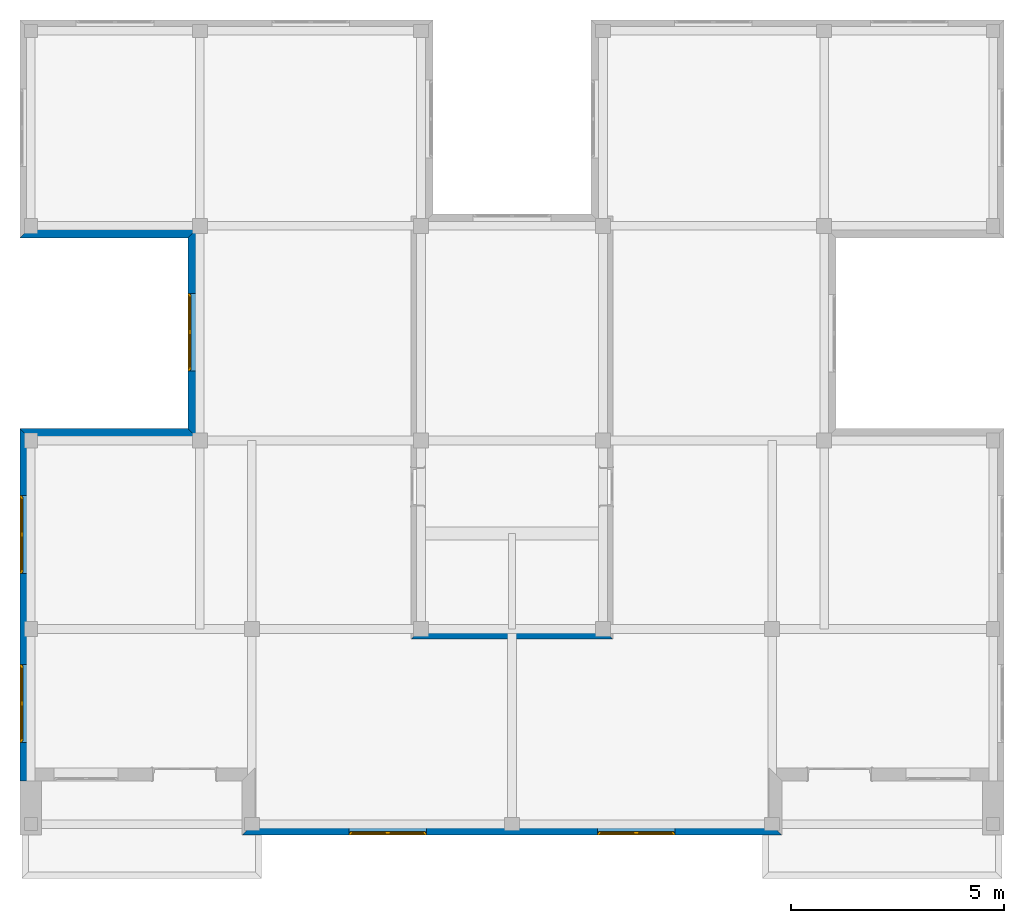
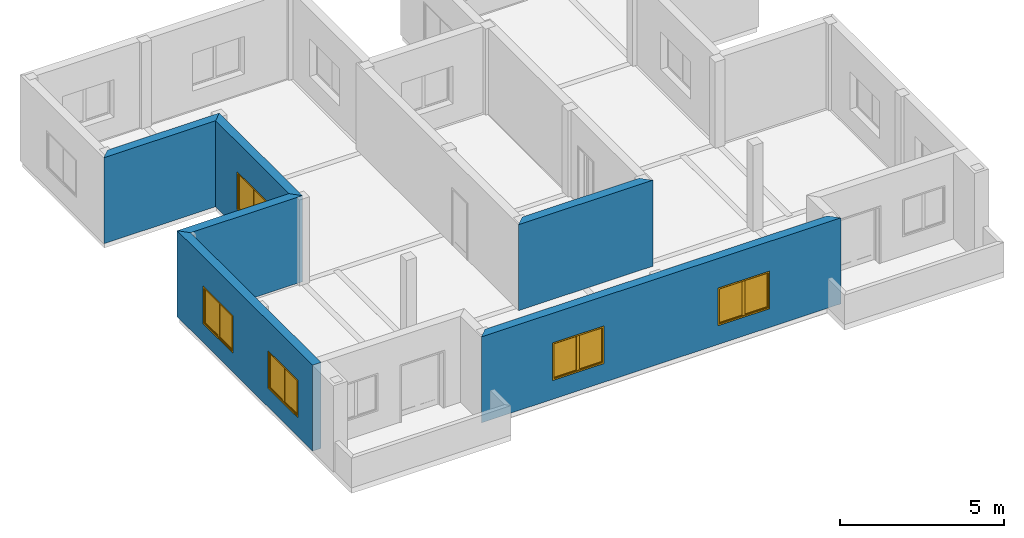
# One storey, part 3 of 6: 6 walls, 5 windows, 5 openings.
"""IFC2X3 building model written with IfcOpenShell, lengths in millimetres."""

from ifc_helpers import new_model, entity, si_unit, converted_unit, direction, frame, origin_with_axes, origin_2d_with_axis, place, context, subcontext, project, spatial, polyline, rectangle, outline, extrude, faceted_brep, source, transform, mapped, material, layer, layer_set, layer_usage, type_object, element, fill, save


model = new_model("IFC2X3")

# Units and contexts
model_context = context("Model", 3, precision=1e-05, world=origin_with_axes(), true_north=direction((0.0, 1.0)))
body_context = subcontext(model_context, "Body", "Model", "MODEL_VIEW")
ifc_project = project(units=[si_unit("LENGTHUNIT", "METRE", prefix="MILLI"), si_unit("AREAUNIT", "SQUARE_METRE"), si_unit("VOLUMEUNIT", "CUBIC_METRE"), converted_unit("PLANEANGLEUNIT", "DEGREE", entity("IfcPlaneAngleMeasure", 0.017453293), si_unit("PLANEANGLEUNIT", "RADIAN"), dimensions=[0, 0, 0, 0, 0, 0, 0]), si_unit("SOLIDANGLEUNIT", "STERADIAN"), si_unit("MASSUNIT", "GRAM"), si_unit("TIMEUNIT", "SECOND"), si_unit("THERMODYNAMICTEMPERATUREUNIT", "DEGREE_CELSIUS"), si_unit("LUMINOUSINTENSITYUNIT", "LUMEN")], contexts=[model_context])

# Site, building, storey
site_placement = place(None, origin_with_axes())
site = spatial("IfcSite", under=ifc_project, at=site_placement, Name="Sitio", CompositionType="ELEMENT")
building_placement = place(site_placement, origin_with_axes())
building = spatial("IfcBuilding", under=site, at=building_placement, Name="Ejemplo_StruBIM", CompositionType="ELEMENT")
storey_placement = place(building_placement, frame((0.0, 0.0, 9601.2), z_axis=(0.0, 0.0, 1.0), x_axis=(1.0, 0.0, 0.0)))
storey = spatial("IfcBuildingStorey", under=building, at=storey_placement, Name="Third floor", CompositionType="ELEMENT", Elevation=9601.2)

# Wall
ifc_material_1 = material(Name="Bloque mampostería")
ifc_layer = layer(ifc_material_1, 300.0, ventilated="UNKNOWN")
ifc_layer_set = layer_set([ifc_layer], Name="Bloque mampostería 300")
ifc_layer_usage_1 = layer_usage(ifc_layer_set, "AXIS2", "POSITIVE", 0.0)
wall_type = type_object("IfcWallType", Name="Bloque mampostería 11 3/4\"", PredefinedType="NOTDEFINED")
wall_1_placement = place(storey_placement, frame((-254.0, 13741.4, 0.0), z_axis=(0.0, 0.0, 1.0), x_axis=(1.0, 0.0, 0.0)))
element("IfcWallStandardCase", 1, at=wall_1_placement, inside=storey, type_object=wall_type, material=ifc_layer_usage_1, Name="Muro-007", context=body_context, shape_type="SweptSolid", body=[
    extrude(outline(polyline([(0.0, 0.0), (3937.0, 0.0), (4237.0, 300.0), (300.0, 300.0), (0.0, 0.0)])), origin_with_axes(), (0.0, 0.0, 1.0), 3200.4),
])

# Wall, opening, window
ifc_layer_usage_2 = layer_usage(ifc_layer_set, "AXIS2", "POSITIVE", 0.0)
wall_2_placement = place(storey_placement, frame((3683.0, 13741.4, 0.0), z_axis=(0.0, 0.0, 1.0), x_axis=(0.0, -1.0, 0.0)))
wall_2 = element("IfcWallStandardCase", 2, at=wall_2_placement, inside=storey, type_object=wall_type, material=ifc_layer_usage_2, Name="Muro-008", context=body_context, shape_type="SweptSolid", body=[
    extrude(outline(polyline([(0.0, 0.0), (4470.4, 0.0), (4770.4, 300.0), (-300.0, 300.0), (0.0, 0.0)])), origin_with_axes(), (0.0, 0.0, 1.0), 3200.4),
])
opening_1_placement = place(wall_2_placement, frame((2209.8, 0.0, 700.0), z_axis=(0.0, 0.0, 1.0), x_axis=(1.0, 0.0, 0.0)))
opening_1 = element("IfcOpeningElement", 3, at=opening_1_placement, cuts=wall_2, Name="V19", context=body_context, shape_type="SweptSolid", body=[
    extrude(rectangle(XDim=1820.0, YDim=1400.0, at=origin_2d_with_axis()), frame((0.0, 300.0, 700.0), z_axis=(0.0, 1.0, 0.0), x_axis=(1.0, 0.0, 0.0)), (0.0, 0.0, -1.0), 300.0),
])
ifc_material_2 = material(Name="Fondo")
window_style = type_object("IfcWindowStyle", Name="Ventana Doble Hoja 16", ConstructionType="NOTDEFINED", OperationType="DOUBLE_PANEL_HORIZONTAL", ParameterTakesPrecedence=False, Sizeable=False)
shared_shape_1 = source(origin_with_axes(), body_context, "Body", "Brep", [
    faceted_brep([(885.0, -50.0, 1350.0), (910.0, -50.0, 1350.0), (910.0, 0.0, 1350.0), (860.0, 0.0, 1350.0), (860.0, -25.0, 1350.0), (885.0, -25.0, 1350.0), (885.0, -50.0, 50.0), (910.0, -50.0, 50.0), (910.0, 0.0, 50.0), (860.0, 0.0, 50.0), (860.0, -25.0, 50.0), (885.0, -25.0, 50.0)], [[[0, 1, 2, 3, 4, 5]], [[6, 7, 1, 0]], [[1, 7, 8, 2]], [[2, 8, 9, 3]], [[4, 3, 9, 10]], [[10, 11, 5, 4]], [[5, 11, 6, 0]], [[11, 10, 9, 8, 7, 6]]]),
    faceted_brep([(-860.0, -25.0, 1350.0), (-860.0, 0.0, 1350.0), (-910.0, 0.0, 1350.0), (-910.0, -50.0, 1350.0), (-885.0, -50.0, 1350.0), (-885.0, -25.0, 1350.0), (-860.0, -25.0, 50.0), (-860.0, 0.0, 50.0), (-910.0, 0.0, 50.0), (-910.0, -50.0, 50.0), (-885.0, -50.0, 50.0), (-885.0, -25.0, 50.0)], [[[0, 1, 2, 3, 4, 5]], [[6, 7, 1, 0]], [[8, 2, 1, 7]], [[9, 3, 2, 8]], [[4, 3, 9, 10]], [[10, 11, 5, 4]], [[5, 11, 6, 0]], [[11, 10, 9, 8, 7, 6]]]),
    faceted_brep([(-860.0, -25.0, 50.0), (-860.0, 0.0, 50.0), (-910.0, 0.0, 50.0), (-910.0, -50.0, 50.0), (-885.0, -50.0, 50.0), (-885.0, -25.0, 50.0), (860.0, -25.0, 50.0), (860.0, 0.0, 50.0), (910.0, 0.0, 50.0), (910.0, 0.0, 0.0), (-910.0, 0.0, 0.0), (-910.0, -50.0, 0.0), (885.0, -50.0, 25.0), (-885.0, -50.0, 25.0), (910.0, -50.0, 0.0), (910.0, -50.0, 50.0), (885.0, -50.0, 50.0), (-885.0, -25.0, 25.0), (885.0, -25.0, 25.0), (885.0, -25.0, 50.0)], [[[0, 1, 2, 3, 4, 5]], [[6, 7, 1, 0]], [[8, 9, 10, 2, 1, 7]], [[11, 3, 2, 10]], [[12, 13, 4, 3, 11, 14, 15, 16]], [[13, 17, 5, 4]], [[5, 17, 18, 19, 6, 0]], [[19, 16, 15, 8, 7, 6]], [[15, 14, 9, 8]], [[14, 11, 10, 9]], [[12, 18, 17, 13]], [[19, 18, 12, 16]]]),
    faceted_brep([(885.0, -50.0, 1350.0), (910.0, -50.0, 1350.0), (910.0, -50.0, 1400.0), (-910.0, -50.0, 1400.0), (-910.0, -50.0, 1350.0), (-885.0, -50.0, 1350.0), (-885.0, -50.0, 1375.0), (885.0, -50.0, 1375.0), (885.0, -25.0, 1350.0), (860.0, -25.0, 1350.0), (860.0, 0.0, 1350.0), (910.0, 0.0, 1350.0), (910.0, 0.0, 1400.0), (-910.0, 0.0, 1400.0), (-910.0, 0.0, 1350.0), (-885.0, -25.0, 1350.0), (-860.0, 0.0, 1350.0), (-860.0, -25.0, 1350.0), (-885.0, -25.0, 1375.0), (885.0, -25.0, 1375.0)], [[[0, 1, 2, 3, 4, 5, 6, 7]], [[8, 9, 10, 11, 1, 0]], [[2, 1, 11, 12]], [[3, 2, 12, 13]], [[4, 3, 13, 14]], [[15, 5, 4, 14, 16, 17]], [[5, 15, 18, 6]], [[6, 18, 19, 7]], [[7, 19, 8, 0]], [[17, 9, 8, 19, 18, 15]], [[17, 16, 10, 9]], [[14, 13, 12, 11, 10, 16]]]),
    faceted_brep([(835.0, -25.0, 1325.0), (835.0, -75.0, 1325.0), (885.0, -75.0, 1325.0), (885.0, -25.0, 1325.0), (835.0, -25.0, 75.0), (835.0, -75.0, 75.0), (885.0, -75.0, 75.0), (885.0, -25.0, 75.0)], [[[0, 1, 2, 3]], [[4, 5, 1, 0]], [[1, 5, 6, 2]], [[3, 2, 6, 7]], [[0, 3, 7, 4]], [[7, 6, 5, 4]]]),
    faceted_brep([(50.0, -25.0, 75.0), (50.0, -75.0, 75.0), (0.0, -75.0, 75.0), (0.0, -25.0, 75.0), (50.0, -25.0, 1325.0), (50.0, -75.0, 1325.0), (0.0, -75.0, 1325.0), (0.0, -25.0, 1325.0)], [[[0, 1, 2, 3]], [[4, 5, 1, 0]], [[1, 5, 6, 2]], [[3, 2, 6, 7]], [[0, 3, 7, 4]], [[7, 6, 5, 4]]]),
    faceted_brep([(0.0, -25.0, 25.0), (0.0, -75.0, 25.0), (0.0, -75.0, 75.0), (0.0, -25.0, 75.0), (885.0, -25.0, 25.0), (885.0, -75.0, 25.0), (885.0, -75.0, 75.0), (835.0, -75.0, 75.0), (50.0, -75.0, 75.0), (50.0, -25.0, 75.0), (835.0, -25.0, 75.0), (885.0, -25.0, 75.0)], [[[0, 1, 2, 3]], [[4, 5, 1, 0]], [[1, 5, 6, 7, 8, 2]], [[3, 2, 8, 9]], [[0, 3, 9, 10, 11, 4]], [[11, 6, 5, 4]], [[10, 7, 6, 11]], [[9, 8, 7, 10]]]),
    faceted_brep([(885.0, -25.0, 1375.0), (885.0, -75.0, 1375.0), (885.0, -75.0, 1325.0), (885.0, -25.0, 1325.0), (0.0, -25.0, 1375.0), (0.0, -75.0, 1375.0), (0.0, -75.0, 1325.0), (50.0, -75.0, 1325.0), (835.0, -75.0, 1325.0), (835.0, -25.0, 1325.0), (50.0, -25.0, 1325.0), (0.0, -25.0, 1325.0)], [[[0, 1, 2, 3]], [[4, 5, 1, 0]], [[1, 5, 6, 7, 8, 2]], [[3, 2, 8, 9]], [[0, 3, 9, 10, 11, 4]], [[11, 6, 5, 4]], [[10, 7, 6, 11]], [[9, 8, 7, 10]]]),
    faceted_brep([(835.0, -40.0, 75.0), (835.0, -60.0, 75.0), (50.0, -60.0, 75.0), (50.0, -40.0, 75.0), (835.0, -40.0, 1325.0), (835.0, -60.0, 1325.0), (50.0, -60.0, 1325.0), (50.0, -40.0, 1325.0)], [[[0, 1, 2, 3]], [[4, 5, 1, 0]], [[1, 5, 6, 2]], [[3, 2, 6, 7]], [[0, 3, 7, 4]], [[7, 6, 5, 4]]]),
    faceted_brep([(-50.0, -25.0, 1325.0), (-50.0, -75.0, 1325.0), (0.0, -75.0, 1325.0), (0.0, -25.0, 1325.0), (-50.0, -25.0, 75.0), (-50.0, -75.0, 75.0), (0.0, -75.0, 75.0), (0.0, -25.0, 75.0)], [[[0, 1, 2, 3]], [[4, 5, 1, 0]], [[1, 5, 6, 2]], [[3, 2, 6, 7]], [[0, 3, 7, 4]], [[7, 6, 5, 4]]]),
    faceted_brep([(-835.0, -25.0, 75.0), (-835.0, -75.0, 75.0), (-885.0, -75.0, 75.0), (-885.0, -25.0, 75.0), (-835.0, -25.0, 1325.0), (-835.0, -75.0, 1325.0), (-885.0, -75.0, 1325.0), (-885.0, -25.0, 1325.0)], [[[0, 1, 2, 3]], [[4, 5, 1, 0]], [[1, 5, 6, 2]], [[3, 2, 6, 7]], [[0, 3, 7, 4]], [[7, 6, 5, 4]]]),
    faceted_brep([(-885.0, -25.0, 25.0), (-885.0, -75.0, 25.0), (-885.0, -75.0, 75.0), (-885.0, -25.0, 75.0), (0.0, -25.0, 25.0), (0.0, -75.0, 25.0), (0.0, -75.0, 75.0), (-50.0, -75.0, 75.0), (-835.0, -75.0, 75.0), (-835.0, -25.0, 75.0), (-50.0, -25.0, 75.0), (0.0, -25.0, 75.0)], [[[0, 1, 2, 3]], [[4, 5, 1, 0]], [[1, 5, 6, 7, 8, 2]], [[3, 2, 8, 9]], [[0, 3, 9, 10, 11, 4]], [[11, 6, 5, 4]], [[10, 7, 6, 11]], [[9, 8, 7, 10]]]),
    faceted_brep([(0.0, -25.0, 1375.0), (0.0, -75.0, 1375.0), (0.0, -75.0, 1325.0), (0.0, -25.0, 1325.0), (-885.0, -25.0, 1375.0), (-885.0, -75.0, 1375.0), (-885.0, -75.0, 1325.0), (-835.0, -75.0, 1325.0), (-50.0, -75.0, 1325.0), (-50.0, -25.0, 1325.0), (-835.0, -25.0, 1325.0), (-885.0, -25.0, 1325.0)], [[[0, 1, 2, 3]], [[4, 5, 1, 0]], [[1, 5, 6, 7, 8, 2]], [[3, 2, 8, 9]], [[0, 3, 9, 10, 11, 4]], [[11, 6, 5, 4]], [[10, 7, 6, 11]], [[9, 8, 7, 10]]]),
    faceted_brep([(-50.0, -40.0, 75.0), (-50.0, -60.0, 75.0), (-835.0, -60.0, 75.0), (-835.0, -40.0, 75.0), (-50.0, -40.0, 1325.0), (-50.0, -60.0, 1325.0), (-835.0, -60.0, 1325.0), (-835.0, -40.0, 1325.0)], [[[0, 1, 2, 3]], [[4, 5, 1, 0]], [[1, 5, 6, 2]], [[3, 2, 6, 7]], [[0, 3, 7, 4]], [[7, 6, 5, 4]]]),
])
window_1_placement = place(opening_1_placement, frame((910.0, 0.0, 0.0), z_axis=(0.0, 0.0, 1.0), x_axis=(-1.0, 0.0, 0.0)))
window_1 = element("IfcWindow", 4, at=window_1_placement, inside=storey, type_object=window_style, material=ifc_material_2, Name="V19", OverallHeight=1400.0, OverallWidth=1820.0, context=body_context, shape_type="MappedRepresentation", body=[
    mapped(shared_shape_1, transform((910.0, 0.0, 0.0))),
])
fill(opening_1, window_1)

# Wall
ifc_layer_usage_3 = layer_usage(ifc_layer_set, "AXIS2", "POSITIVE", 0.0)
wall_3_placement = place(storey_placement, frame((3683.0, 9271.0, 0.0), z_axis=(0.0, 0.0, 1.0), x_axis=(-1.0, 0.0, 0.0)))
element("IfcWallStandardCase", 5, at=wall_3_placement, inside=storey, type_object=wall_type, material=ifc_layer_usage_3, Name="Muro-009", context=body_context, shape_type="SweptSolid", body=[
    extrude(outline(polyline([(0.0, 0.0), (3937.0, 0.0), (3637.0, 300.0), (-300.0, 300.0), (0.0, 0.0)])), origin_with_axes(), (0.0, 0.0, 1.0), 3200.4),
])

# Wall, openings, windows
ifc_layer_usage_4 = layer_usage(ifc_layer_set, "AXIS2", "POSITIVE", 0.0)
wall_4_placement = place(storey_placement, frame((-254.0, 9271.0, 0.0), z_axis=(0.0, 0.0, 1.0), x_axis=(0.0, -1.0, 0.0)))
wall_4 = element("IfcWallStandardCase", 6, at=wall_4_placement, inside=storey, type_object=wall_type, material=ifc_layer_usage_4, Name="Muro-010", context=body_context, shape_type="SweptSolid", body=[
    extrude(outline(polyline([(0.0, 0.0), (8255.0, 0.0), (8255.0, 300.0), (300.0, 300.0), (0.0, 0.0)])), origin_with_axes(), (0.0, 0.0, 1.0), 3200.4),
])
opening_2_placement = place(wall_4_placement, frame((2484.8, 0.0, 700.0), z_axis=(0.0, 0.0, 1.0), x_axis=(1.0, 0.0, 0.0)))
opening_2 = element("IfcOpeningElement", 7, at=opening_2_placement, cuts=wall_4, Name="V06", context=body_context, shape_type="SweptSolid", body=[
    extrude(rectangle(XDim=1820.0, YDim=1400.0, at=origin_2d_with_axis()), frame((0.0, 300.0, 700.0), z_axis=(0.0, 1.0, 0.0), x_axis=(1.0, 0.0, 0.0)), (0.0, 0.0, -1.0), 300.0),
])
opening_3_placement = place(wall_4_placement, frame((6443.3, 0.0, 700.0), z_axis=(0.0, 0.0, 1.0), x_axis=(1.0, 0.0, 0.0)))
opening_3 = element("IfcOpeningElement", 8, at=opening_3_placement, cuts=wall_4, Name="V07", context=body_context, shape_type="SweptSolid", body=[
    extrude(rectangle(XDim=1820.0, YDim=1400.0, at=origin_2d_with_axis()), frame((0.0, 300.0, 700.0), z_axis=(0.0, -1.0, 0.0), x_axis=(1.0, 0.0, 0.0)), (0.0, 0.0, 1.0), 300.0),
])
shared_shape_2 = source(origin_with_axes(), body_context, "Body", "Brep", [
    faceted_brep([(-885.0, -50.0, 1350.0), (-885.0, -25.0, 1350.0), (-860.0, -25.0, 1350.0), (-860.0, 0.0, 1350.0), (-910.0, 0.0, 1350.0), (-910.0, -50.0, 1350.0), (-885.0, -50.0, 50.0), (-885.0, -25.0, 50.0), (-860.0, -25.0, 50.0), (-860.0, 0.0, 50.0), (-910.0, 0.0, 50.0), (-910.0, -50.0, 50.0)], [[[0, 1, 2, 3, 4, 5]], [[1, 0, 6, 7]], [[8, 2, 1, 7]], [[2, 8, 9, 3]], [[4, 3, 9, 10]], [[5, 4, 10, 11]], [[6, 0, 5, 11]], [[7, 6, 11, 10, 9, 8]]]),
    faceted_brep([(860.0, -25.0, 1350.0), (885.0, -25.0, 1350.0), (885.0, -50.0, 1350.0), (910.0, -50.0, 1350.0), (910.0, 0.0, 1350.0), (860.0, 0.0, 1350.0), (860.0, -25.0, 50.0), (885.0, -25.0, 50.0), (885.0, -50.0, 50.0), (910.0, -50.0, 50.0), (910.0, 0.0, 50.0), (860.0, 0.0, 50.0)], [[[0, 1, 2, 3, 4, 5]], [[1, 0, 6, 7]], [[8, 2, 1, 7]], [[2, 8, 9, 3]], [[9, 10, 4, 3]], [[10, 11, 5, 4]], [[6, 0, 5, 11]], [[7, 6, 11, 10, 9, 8]]]),
    faceted_brep([(860.0, -25.0, 50.0), (885.0, -25.0, 50.0), (885.0, -50.0, 50.0), (910.0, -50.0, 50.0), (910.0, 0.0, 50.0), (860.0, 0.0, 50.0), (-860.0, -25.0, 50.0), (-885.0, -25.0, 50.0), (-885.0, -25.0, 25.0), (885.0, -25.0, 25.0), (885.0, -50.0, 25.0), (-885.0, -50.0, 25.0), (-885.0, -50.0, 50.0), (-910.0, -50.0, 50.0), (-910.0, -50.0, 0.0), (910.0, -50.0, 0.0), (910.0, 0.0, 0.0), (-910.0, 0.0, 50.0), (-860.0, 0.0, 50.0), (-910.0, 0.0, 0.0)], [[[0, 1, 2, 3, 4, 5]], [[1, 0, 6, 7, 8, 9]], [[10, 2, 1, 9]], [[11, 12, 13, 14, 15, 3, 2, 10]], [[15, 16, 4, 3]], [[17, 18, 5, 4, 16, 19]], [[6, 0, 5, 18]], [[7, 6, 18, 17, 13, 12]], [[7, 12, 11, 8]], [[11, 10, 9, 8]], [[13, 17, 19, 14]], [[14, 19, 16, 15]]]),
    faceted_brep([(-885.0, -50.0, 1350.0), (-885.0, -50.0, 1375.0), (885.0, -50.0, 1375.0), (885.0, -50.0, 1350.0), (910.0, -50.0, 1350.0), (910.0, -50.0, 1400.0), (-910.0, -50.0, 1400.0), (-910.0, -50.0, 1350.0), (-885.0, -25.0, 1350.0), (-885.0, -25.0, 1375.0), (885.0, -25.0, 1375.0), (885.0, -25.0, 1350.0), (860.0, -25.0, 1350.0), (860.0, 0.0, 1350.0), (910.0, 0.0, 1350.0), (910.0, 0.0, 1400.0), (-910.0, 0.0, 1400.0), (-910.0, 0.0, 1350.0), (-860.0, 0.0, 1350.0), (-860.0, -25.0, 1350.0)], [[[0, 1, 2, 3, 4, 5, 6, 7]], [[1, 0, 8, 9]], [[2, 1, 9, 10]], [[3, 2, 10, 11]], [[11, 12, 13, 14, 4, 3]], [[4, 14, 15, 5]], [[5, 15, 16, 6]], [[6, 16, 17, 7]], [[8, 0, 7, 17, 18, 19]], [[12, 11, 10, 9, 8, 19]], [[12, 19, 18, 13]], [[14, 13, 18, 17, 16, 15]]]),
    faceted_brep([(-835.0, -25.0, 1325.0), (-885.0, -25.0, 1325.0), (-885.0, -75.0, 1325.0), (-835.0, -75.0, 1325.0), (-835.0, -25.0, 75.0), (-885.0, -25.0, 75.0), (-885.0, -75.0, 75.0), (-835.0, -75.0, 75.0)], [[[0, 1, 2, 3]], [[0, 4, 5, 1]], [[1, 5, 6, 2]], [[3, 2, 6, 7]], [[4, 0, 3, 7]], [[5, 4, 7, 6]]]),
    faceted_brep([(-50.0, -25.0, 75.0), (0.0, -25.0, 75.0), (0.0, -75.0, 75.0), (-50.0, -75.0, 75.0), (-50.0, -25.0, 1325.0), (0.0, -25.0, 1325.0), (0.0, -75.0, 1325.0), (-50.0, -75.0, 1325.0)], [[[0, 1, 2, 3]], [[0, 4, 5, 1]], [[1, 5, 6, 2]], [[3, 2, 6, 7]], [[4, 0, 3, 7]], [[5, 4, 7, 6]]]),
    faceted_brep([(0.0, -25.0, 25.0), (0.0, -25.0, 75.0), (0.0, -75.0, 75.0), (0.0, -75.0, 25.0), (-885.0, -25.0, 25.0), (-885.0, -25.0, 75.0), (-835.0, -25.0, 75.0), (-50.0, -25.0, 75.0), (-50.0, -75.0, 75.0), (-835.0, -75.0, 75.0), (-885.0, -75.0, 75.0), (-885.0, -75.0, 25.0)], [[[0, 1, 2, 3]], [[0, 4, 5, 6, 7, 1]], [[1, 7, 8, 2]], [[3, 2, 8, 9, 10, 11]], [[4, 0, 3, 11]], [[5, 4, 11, 10]], [[6, 5, 10, 9]], [[7, 6, 9, 8]]]),
    faceted_brep([(-885.0, -25.0, 1375.0), (-885.0, -25.0, 1325.0), (-885.0, -75.0, 1325.0), (-885.0, -75.0, 1375.0), (0.0, -25.0, 1375.0), (0.0, -25.0, 1325.0), (-50.0, -25.0, 1325.0), (-835.0, -25.0, 1325.0), (-835.0, -75.0, 1325.0), (-50.0, -75.0, 1325.0), (0.0, -75.0, 1325.0), (0.0, -75.0, 1375.0)], [[[0, 1, 2, 3]], [[0, 4, 5, 6, 7, 1]], [[1, 7, 8, 2]], [[3, 2, 8, 9, 10, 11]], [[4, 0, 3, 11]], [[5, 4, 11, 10]], [[6, 5, 10, 9]], [[7, 6, 9, 8]]]),
    faceted_brep([(-835.0, -40.0, 75.0), (-50.0, -40.0, 75.0), (-50.0, -60.0, 75.0), (-835.0, -60.0, 75.0), (-835.0, -40.0, 1325.0), (-50.0, -40.0, 1325.0), (-50.0, -60.0, 1325.0), (-835.0, -60.0, 1325.0)], [[[0, 1, 2, 3]], [[0, 4, 5, 1]], [[1, 5, 6, 2]], [[3, 2, 6, 7]], [[4, 0, 3, 7]], [[5, 4, 7, 6]]]),
    faceted_brep([(50.0, -25.0, 1325.0), (0.0, -25.0, 1325.0), (0.0, -75.0, 1325.0), (50.0, -75.0, 1325.0), (50.0, -25.0, 75.0), (0.0, -25.0, 75.0), (0.0, -75.0, 75.0), (50.0, -75.0, 75.0)], [[[0, 1, 2, 3]], [[0, 4, 5, 1]], [[1, 5, 6, 2]], [[3, 2, 6, 7]], [[4, 0, 3, 7]], [[5, 4, 7, 6]]]),
    faceted_brep([(835.0, -25.0, 75.0), (885.0, -25.0, 75.0), (885.0, -75.0, 75.0), (835.0, -75.0, 75.0), (835.0, -25.0, 1325.0), (885.0, -25.0, 1325.0), (885.0, -75.0, 1325.0), (835.0, -75.0, 1325.0)], [[[0, 1, 2, 3]], [[0, 4, 5, 1]], [[1, 5, 6, 2]], [[3, 2, 6, 7]], [[4, 0, 3, 7]], [[5, 4, 7, 6]]]),
    faceted_brep([(885.0, -25.0, 25.0), (885.0, -25.0, 75.0), (885.0, -75.0, 75.0), (885.0, -75.0, 25.0), (0.0, -25.0, 25.0), (0.0, -25.0, 75.0), (50.0, -25.0, 75.0), (835.0, -25.0, 75.0), (835.0, -75.0, 75.0), (50.0, -75.0, 75.0), (0.0, -75.0, 75.0), (0.0, -75.0, 25.0)], [[[0, 1, 2, 3]], [[0, 4, 5, 6, 7, 1]], [[1, 7, 8, 2]], [[3, 2, 8, 9, 10, 11]], [[4, 0, 3, 11]], [[5, 4, 11, 10]], [[6, 5, 10, 9]], [[7, 6, 9, 8]]]),
    faceted_brep([(0.0, -25.0, 1375.0), (0.0, -25.0, 1325.0), (0.0, -75.0, 1325.0), (0.0, -75.0, 1375.0), (885.0, -25.0, 1375.0), (885.0, -25.0, 1325.0), (835.0, -25.0, 1325.0), (50.0, -25.0, 1325.0), (50.0, -75.0, 1325.0), (835.0, -75.0, 1325.0), (885.0, -75.0, 1325.0), (885.0, -75.0, 1375.0)], [[[0, 1, 2, 3]], [[0, 4, 5, 6, 7, 1]], [[1, 7, 8, 2]], [[3, 2, 8, 9, 10, 11]], [[4, 0, 3, 11]], [[5, 4, 11, 10]], [[6, 5, 10, 9]], [[7, 6, 9, 8]]]),
    faceted_brep([(50.0, -40.0, 75.0), (835.0, -40.0, 75.0), (835.0, -60.0, 75.0), (50.0, -60.0, 75.0), (50.0, -40.0, 1325.0), (835.0, -40.0, 1325.0), (835.0, -60.0, 1325.0), (50.0, -60.0, 1325.0)], [[[0, 1, 2, 3]], [[0, 4, 5, 1]], [[1, 5, 6, 2]], [[3, 2, 6, 7]], [[4, 0, 3, 7]], [[5, 4, 7, 6]]]),
])
window_2_placement = place(opening_3_placement, frame((910.0, 0.0, 0.0), z_axis=(0.0, 0.0, 1.0), x_axis=(-1.0, 0.0, 0.0)))
window_2 = element("IfcWindow", 9, at=window_2_placement, inside=storey, type_object=window_style, material=ifc_material_2, Name="V07", OverallHeight=1400.0, OverallWidth=1820.0, context=body_context, shape_type="MappedRepresentation", body=[
    mapped(shared_shape_2, transform((910.0, 0.0, 0.0))),
])
fill(opening_3, window_2)
window_3_placement = place(opening_2_placement, frame((910.0, 0.0, 0.0), z_axis=(0.0, 0.0, 1.0), x_axis=(-1.0, 0.0, 0.0)))
window_3 = element("IfcWindow", 10, at=window_3_placement, inside=storey, type_object=window_style, material=ifc_material_2, Name="V06", OverallHeight=1400.0, OverallWidth=1820.0, context=body_context, shape_type="MappedRepresentation", body=[
    mapped(shared_shape_1, transform((910.0, 0.0, 0.0))),
])
fill(opening_2, window_3)

ifc_layer_usage_5 = layer_usage(ifc_layer_set, "AXIS2", "POSITIVE", 0.0)
wall_5_placement = place(storey_placement, frame((4953.0, -254.0, 0.0), z_axis=(0.0, 0.0, 1.0), x_axis=(1.0, 0.0, 0.0)))
wall_5 = element("IfcWallStandardCase", 11, at=wall_5_placement, inside=storey, type_object=wall_type, material=ifc_layer_usage_5, Name="Muro-015", context=body_context, shape_type="SweptSolid", body=[
    extrude(outline(polyline([(0.0, 0.0), (12649.2, 0.0), (12349.2, 300.0), (300.0, 300.0), (0.0, 0.0)])), origin_with_axes(), (0.0, 0.0, 1.0), 3200.4),
])
opening_4_placement = place(wall_5_placement, frame((9237.3, 0.0, 700.0), z_axis=(0.0, 0.0, 1.0), x_axis=(1.0, 0.0, 0.0)))
opening_4 = element("IfcOpeningElement", 12, at=opening_4_placement, cuts=wall_5, Name="V16", context=body_context, shape_type="SweptSolid", body=[
    extrude(rectangle(XDim=1820.0, YDim=1400.0, at=origin_2d_with_axis()), frame((0.0, 300.0, 700.0), z_axis=(0.0, 1.0, 0.0), x_axis=(1.0, 0.0, 0.0)), (0.0, 0.0, -1.0), 300.0),
])
opening_5_placement = place(wall_5_placement, frame((3411.9, 0.0, 700.0), z_axis=(0.0, 0.0, 1.0), x_axis=(1.0, 0.0, 0.0)))
opening_5 = element("IfcOpeningElement", 13, at=opening_5_placement, cuts=wall_5, Name="V17", context=body_context, shape_type="SweptSolid", body=[
    extrude(rectangle(XDim=1820.0, YDim=1400.0, at=origin_2d_with_axis()), frame((0.0, 300.0, 700.0), z_axis=(0.0, -1.0, 0.0), x_axis=(1.0, 0.0, 0.0)), (0.0, 0.0, 1.0), 300.0),
])
window_4_placement = place(opening_5_placement, frame((910.0, 0.0, 0.0), z_axis=(0.0, 0.0, 1.0), x_axis=(-1.0, 0.0, 0.0)))
window_4 = element("IfcWindow", 14, at=window_4_placement, inside=storey, type_object=window_style, material=ifc_material_2, Name="V17", OverallHeight=1400.0, OverallWidth=1820.0, context=body_context, shape_type="MappedRepresentation", body=[
    mapped(shared_shape_2, transform((910.0, 0.0, 0.0))),
])
fill(opening_5, window_4)
window_5_placement = place(opening_4_placement, frame((910.0, 0.0, 0.0), z_axis=(0.0, 0.0, 1.0), x_axis=(-1.0, 0.0, 0.0)))
window_5 = element("IfcWindow", 15, at=window_5_placement, inside=storey, type_object=window_style, material=ifc_material_2, Name="V16", OverallHeight=1400.0, OverallWidth=1820.0, context=body_context, shape_type="MappedRepresentation", body=[
    mapped(shared_shape_1, transform((910.0, 0.0, 0.0))),
])
fill(opening_4, window_5)

# Wall
ifc_layer_usage_6 = layer_usage(ifc_layer_set, "AXIS2", "POSITIVE", 0.0)
wall_6_placement = place(storey_placement, frame((8915.4, 4343.4, 0.0), z_axis=(0.0, 0.0, 1.0), x_axis=(1.0, 0.0, 0.0)))
element("IfcWallStandardCase", 16, at=wall_6_placement, inside=storey, type_object=wall_type, material=ifc_layer_usage_6, Name="Muro-008", context=body_context, shape_type="SweptSolid", body=[
    extrude(outline(polyline([(0.0, 0.0), (4724.4, 0.0), (4424.4, 300.0), (300.0, 300.0), (0.0, 0.0)])), origin_with_axes(), (0.0, 0.0, 1.0), 3200.4),
])

save(model, "model.ifc")
